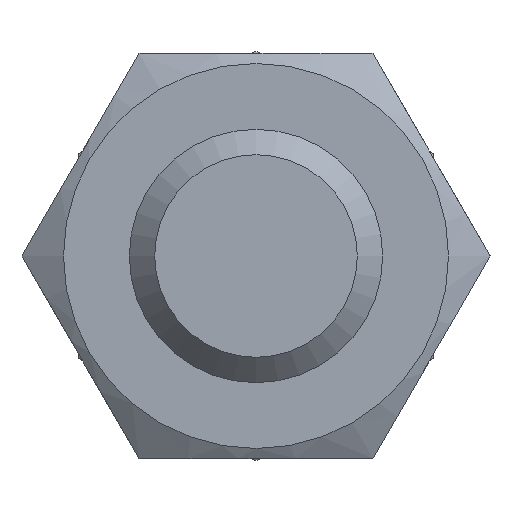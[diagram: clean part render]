
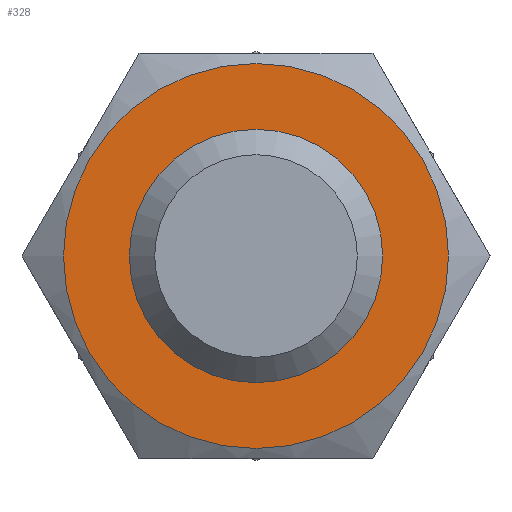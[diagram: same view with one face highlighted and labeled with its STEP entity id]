
A CAD part, left-side view. The second image highlights one B-rep face of the part: STEP entity #328.
In plain terms, the highlighted planar face has unit normal (-1, 0, 0) as drawn and (0, 0, 1) by its records, which use the part's own axes.
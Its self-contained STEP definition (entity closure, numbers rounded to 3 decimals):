
#328=ADVANCED_FACE('',(#588,#590),#592,.T.);
#588=FACE_BOUND('',#589,.T.);
#589=EDGE_LOOP('',(#739));
#590=FACE_BOUND('',#591,.T.);
#591=EDGE_LOOP('',(#740));
#592=PLANE('',#593);
#593=AXIS2_PLACEMENT_3D('',#594,#595,#596);
#594=CARTESIAN_POINT('',(0.,0.,8.4));
#595=DIRECTION('',(0.,0.,1.));
#596=DIRECTION('',(1.,0.,0.));
#739=ORIENTED_EDGE('',*,*,#808,.T.);
#740=ORIENTED_EDGE('',*,*,#809,.T.);
#808=EDGE_CURVE('',#918,#918,#919,.F.);
#809=EDGE_CURVE('',#920,#920,#921,.F.);
#918=VERTEX_POINT('',#1933);
#919=CIRCLE('',#1934,7.6);
#920=VERTEX_POINT('',#1938);
#921=CIRCLE('',#1939,5.);
#1933=CARTESIAN_POINT('',(0.,7.6,8.4));
#1934=AXIS2_PLACEMENT_3D('',#1935,#1936,#1937);
#1935=CARTESIAN_POINT('',(0.,0.,8.4));
#1936=DIRECTION('',(0.,0.,-1.));
#1937=DIRECTION('',(0.,1.,0.));
#1938=CARTESIAN_POINT('',(5.,0.,8.4));
#1939=AXIS2_PLACEMENT_3D('',#1940,#1941,#1942);
#1940=CARTESIAN_POINT('',(0.,0.,8.4));
#1941=DIRECTION('',(0.,0.,1.));
#1942=DIRECTION('',(1.,0.,0.));
